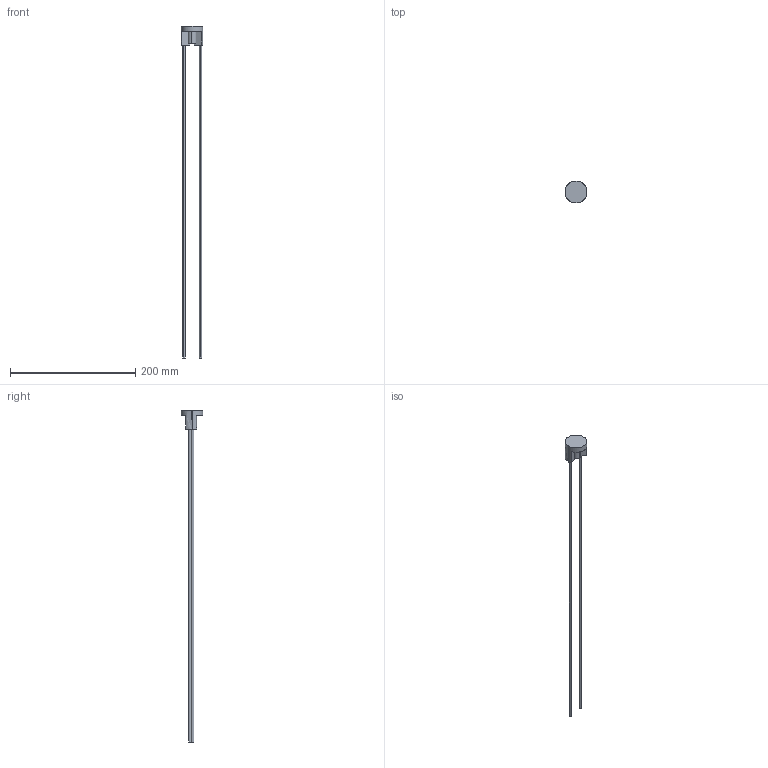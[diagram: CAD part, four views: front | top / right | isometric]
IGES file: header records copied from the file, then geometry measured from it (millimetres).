
Start section: SolidWorks IGES file using analytic representation for surfaces
Global section: file name: C:\Users\Toshiba\Desktop\FR-3PRNA.IGS; native system: SolidWorks 2014; preprocessor: SolidWorks 2014; author: Toshiba; date: 160621.090234; units: metre
Bounding box: 35 x 35 x 530.7 mm (x, y, z)
Surface area: 18087 mm2 (no closed solid volume)
Topology: 0 solids, 0 shells, 34 faces, 680 edges, 680 vertices
Faces by surface type: revolution 17, bspline 17
